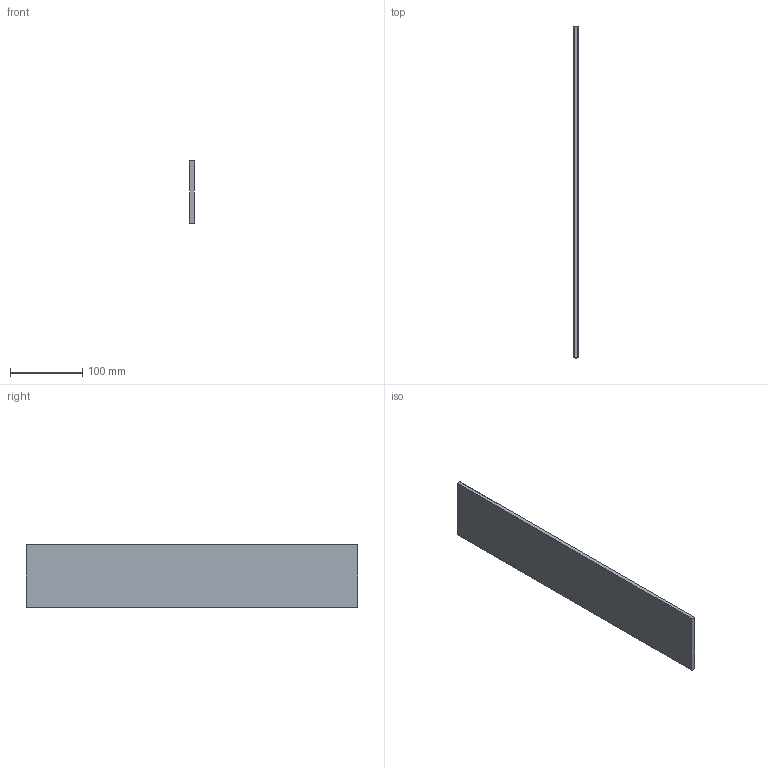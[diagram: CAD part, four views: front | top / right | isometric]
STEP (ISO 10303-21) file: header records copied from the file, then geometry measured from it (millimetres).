
FILE_DESCRIPTION(('STEP AP242'),'1');
FILE_NAME('OPO_53.156.60.stp','2026-01-27T04:08:24',(' '),(' '),'Spatial InterOp 3D',' ',' ');
FILE_SCHEMA(('AP242_MANAGED_MODEL_BASED_3D_ENGINEERING_MIM_LF {1 0 10303 442 1 1 4}'));
Length unit declared in the file: millimetre
Products named in the file (1): 1
Bounding box: 6 x 458 x 87 mm (x, y, z)
Volume: 238746.2 mm3; surface area: 85586.7 mm2
Topology: 1 solids, 1 shells, 52 faces, 132 edges, 88 vertices
Faces by surface type: plane 32, cylinder 20
Entity records: 2016 total; most frequent: DIRECTION 278, CARTESIAN_POINT 273, ORIENTED_EDGE 264, EDGE_CURVE 132, AXIS2_PLACEMENT_3D 93, LINE 92, VECTOR 92, VERTEX_POINT 88
